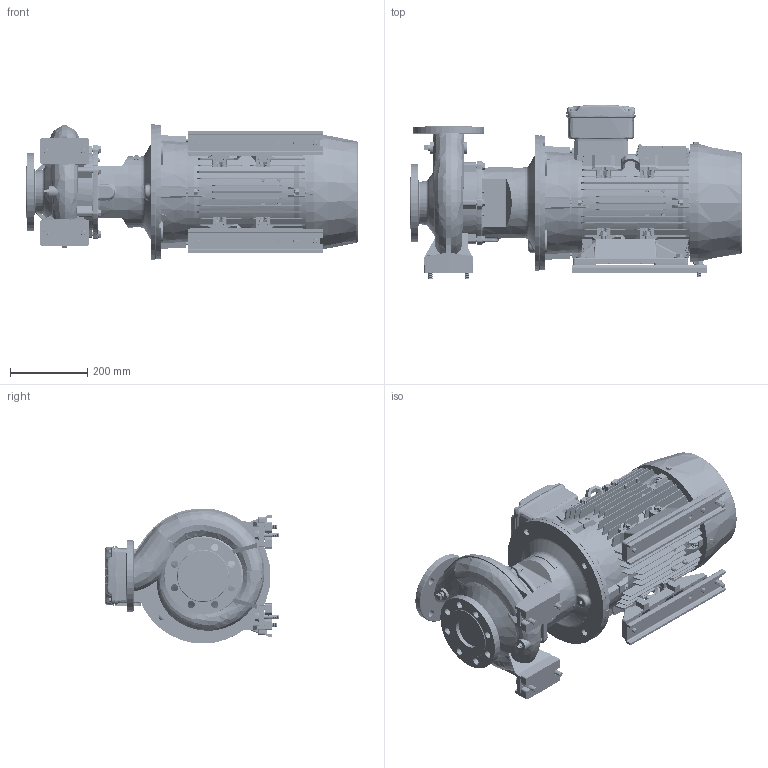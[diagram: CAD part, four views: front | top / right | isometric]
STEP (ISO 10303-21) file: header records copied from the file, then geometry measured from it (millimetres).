
FILE_DESCRIPTION (( 'STEP AP214' ), '1' );
FILE_NAME ('GSD2 65-160_11.0, 15.0 & 18.5_(160ML)_W21.STEP', '2026-07-08T06:59:37', ( '' ), ( '' ), 'SwSTEP 2.0', 'SolidWorks 2024', '' );
FILE_SCHEMA (( 'AUTOMOTIVE_DESIGN' ));
Length unit declared in the file: millimetre
Products named in the file (10): CGS11-5311_2_3_4_5_CGS11-5311; Parametric bolt and washer_SFT-A301B; Parametric bolt_SFT-A301B; Parametric Flat Washer_M12; GSD2  65-160_11.0, 15.0 & 18.5_(160ML)_W21; 210_254 x 20 - 271472113; 160M_L_ALIE3_W21T_B35; Parametric bolt_SFT-A309B; 65-160-160M_L_ﾃﾞﾌｫﾙﾄ; Parametric bolt and washer_SFT-A309B
Assembly tree (20 placements, depth 3):
  GSD2  65-160_11.0, 15.0 & 18.5_(160ML)_W21
    65-160-160M_L_ﾃﾞﾌｫﾙﾄ
    210_254 x 20 - 271472113  x2
    CGS11-5311_2_3_4_5_CGS11-5311  x2
    Parametric bolt and washer_SFT-A309B  x4
      Parametric bolt_SFT-A309B
      Parametric Flat Washer_M12
    Parametric bolt and washer_SFT-A301B  x6
      Parametric bolt_SFT-A301B
      Parametric Flat Washer_M12
    160M_L_ALIE3_W21T_B35
Bounding box: 860.3 x 452.03 x 350 mm (x, y, z)
Volume: 44656200.4 mm3; surface area: 2915726.1 mm2
Topology: 55 solids, 61 shells, 6098 faces, 15783 edges, 10221 vertices
Faces by surface type: plane 3672, cylinder 1218, cone 531, bspline 429, torus 232, sphere 16
Entity records: 215839 total; most frequent: CARTESIAN_POINT 85523, ORIENTED_EDGE 28586, DIRECTION 24160, EDGE_CURVE 14293, VERTEX_POINT 9261, LINE 9226, VECTOR 9226, AXIS2_PLACEMENT_3D 7467
